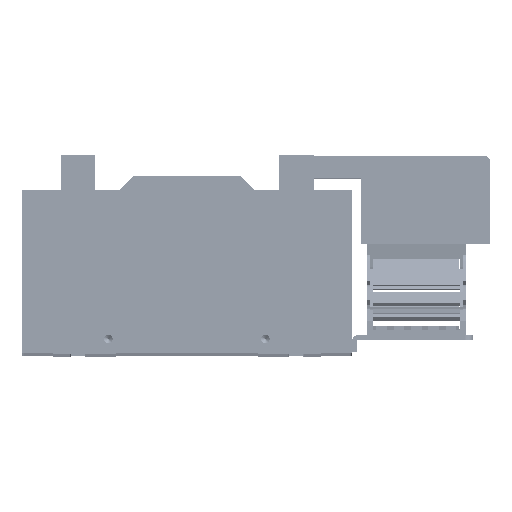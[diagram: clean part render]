
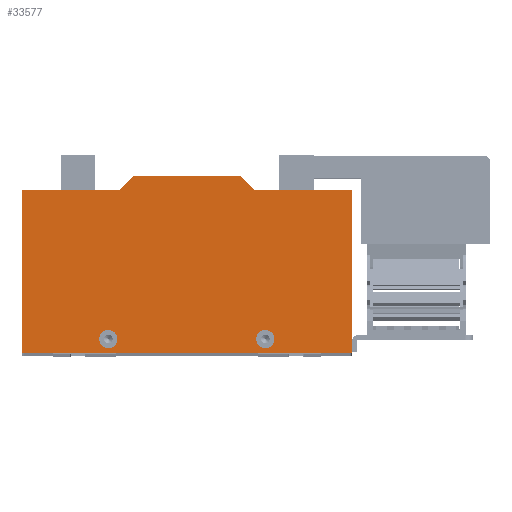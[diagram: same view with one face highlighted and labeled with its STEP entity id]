
A CAD part, top view. The second image highlights one B-rep face of the part: STEP entity #33577.
In plain terms, the highlighted planar face has unit normal (0, 0, 1) as drawn and (0, 0, -1) by its records, which use the part's own axes.
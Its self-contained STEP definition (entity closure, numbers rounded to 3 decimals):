
#12096 = CARTESIAN_POINT ( 'NONE',  ( 14.809, 84.299, 0. ) ) ;
#12155 = CARTESIAN_POINT ( 'NONE',  ( -175.191, 84.299, 0. ) ) ;
#12185 = DIRECTION ( 'NONE',  ( 0.707, -0.707, 0. ) ) ;
#12186 = VECTOR ( 'NONE', #12185, 1000. ) ;
#12187 = CARTESIAN_POINT ( 'NONE',  ( -111.191, -17.701, 0. ) ) ;
#12188 = LINE ( 'NONE', #12187, #12186 ) ;
#12190 = DIRECTION ( 'NONE',  ( 0.707, 0.707, 0. ) ) ;
#12191 = VECTOR ( 'NONE', #12190, 1000. ) ;
#12192 = CARTESIAN_POINT ( 'NONE',  ( -41.191, -9.701, 0. ) ) ;
#12193 = LINE ( 'NONE', #12192, #12191 ) ;
#12199 = CARTESIAN_POINT ( 'NONE',  ( -41.191, -9.701, 0. ) ) ;
#12200 = DIRECTION ( 'NONE',  ( 1., 0., 0. ) ) ;
#12201 = VECTOR ( 'NONE', #12200, 1000. ) ;
#12202 = CARTESIAN_POINT ( 'NONE',  ( 14.809, -9.701, 0. ) ) ;
#12203 = LINE ( 'NONE', #12202, #12201 ) ;
#12218 = DIRECTION ( 'NONE',  ( 0., -1., 0. ) ) ;
#12219 = VECTOR ( 'NONE', #12218, 1000. ) ;
#12220 = CARTESIAN_POINT ( 'NONE',  ( 14.809, 84.299, 0. ) ) ;
#12221 = LINE ( 'NONE', #12220, #12219 ) ;
#12231 = DIRECTION ( 'NONE',  ( 1., 0., 0. ) ) ;
#12232 = VECTOR ( 'NONE', #12231, 1000. ) ;
#12233 = CARTESIAN_POINT ( 'NONE',  ( -119.191, -9.701, 0. ) ) ;
#12234 = LINE ( 'NONE', #12233, #12232 ) ;
#12241 = CARTESIAN_POINT ( 'NONE',  ( -119.191, -9.701, 0. ) ) ;
#12342 = DIRECTION ( 'NONE',  ( -1., 0., 0. ) ) ;
#12343 = DIRECTION ( 'NONE',  ( 0., 0., -1. ) ) ;
#12344 = CARTESIAN_POINT ( 'NONE',  ( -34.941, 76.299, 0. ) ) ;
#12345 = AXIS2_PLACEMENT_3D ( 'NONE', #12344, #12343, #12342 ) ;
#12346 = CIRCLE ( 'NONE', #12345, 5.25 ) ;
#12418 = CARTESIAN_POINT ( 'NONE',  ( -40.191, 76.299, 0. ) ) ;
#12434 = CARTESIAN_POINT ( 'NONE',  ( -120.191, 76.299, 0. ) ) ;
#12528 = DIRECTION ( 'NONE',  ( 1., 0., 0. ) ) ;
#12529 = VECTOR ( 'NONE', #12528, 1000. ) ;
#12530 = CARTESIAN_POINT ( 'NONE',  ( -175.191, 84.299, 0. ) ) ;
#12531 = LINE ( 'NONE', #12530, #12529 ) ;
#12587 = CARTESIAN_POINT ( 'NONE',  ( -29.691, 76.299, 0. ) ) ;
#32981 = VERTEX_POINT ( 'NONE', #12096 ) ;
#33026 = EDGE_CURVE ( 'NONE', #33309, #33029, #93693, .T. ) ;
#33029 = VERTEX_POINT ( 'NONE', #93750 ) ;
#33049 = VERTEX_POINT ( 'NONE', #93714 ) ;
#33062 = EDGE_CURVE ( 'NONE', #33049, #33169, #93765, .T. ) ;
#33169 = VERTEX_POINT ( 'NONE', #12155 ) ;
#33175 = ORIENTED_EDGE ( 'NONE', *, *, #33179, .F. ) ;
#33179 = EDGE_CURVE ( 'NONE', #33180, #33558, #12203, .T. ) ;
#33180 = VERTEX_POINT ( 'NONE', #12199 ) ;
#33183 = ORIENTED_EDGE ( 'NONE', *, *, #33185, .F. ) ;
#33185 = EDGE_CURVE ( 'NONE', #33620, #33180, #12193, .T. ) ;
#33187 = ORIENTED_EDGE ( 'NONE', *, *, #33650, .T. ) ;
#33189 = ORIENTED_EDGE ( 'NONE', *, *, #33191, .F. ) ;
#33191 = EDGE_CURVE ( 'NONE', #33193, #33717, #12188, .T. ) ;
#33193 = VERTEX_POINT ( 'NONE', #12241 ) ;
#33199 = ORIENTED_EDGE ( 'NONE', *, *, #33200, .F. ) ;
#33200 = EDGE_CURVE ( 'NONE', #33049, #33193, #12234, .T. ) ;
#33209 = ORIENTED_EDGE ( 'NONE', *, *, #33062, .T. ) ;
#33212 = EDGE_CURVE ( 'NONE', #32981, #33558, #12221, .T. ) ;
#33219 = ORIENTED_EDGE ( 'NONE', *, *, #33367, .T. ) ;
#33287 = EDGE_CURVE ( 'NONE', #33404, #33314, #12346, .T. ) ;
#33309 = VERTEX_POINT ( 'NONE', #12434 ) ;
#33314 = VERTEX_POINT ( 'NONE', #12418 ) ;
#33367 = EDGE_CURVE ( 'NONE', #33169, #32981, #12531, .T. ) ;
#33404 = VERTEX_POINT ( 'NONE', #12587 ) ;
#33552 = ORIENTED_EDGE ( 'NONE', *, *, #33026, .F. ) ;
#33558 = VERTEX_POINT ( 'NONE', #94078 ) ;
#33577 = ADVANCED_FACE ( 'NONE', ( #94120, #94119, #94118 ), #94117, .F. ) ;
#33600 = EDGE_LOOP ( 'NONE', ( #33637, #33552 ) ) ;
#33617 = ORIENTED_EDGE ( 'NONE', *, *, #33618, .F. ) ;
#33618 = EDGE_CURVE ( 'NONE', #33314, #33404, #94189, .T. ) ;
#33620 = VERTEX_POINT ( 'NONE', #94184 ) ;
#33632 = ORIENTED_EDGE ( 'NONE', *, *, #33212, .T. ) ;
#33637 = ORIENTED_EDGE ( 'NONE', *, *, #33723, .F. ) ;
#33639 = EDGE_LOOP ( 'NONE', ( #33632, #33175, #33183, #33187, #33189, #33199, #33209, #33219 ) ) ;
#33650 = EDGE_CURVE ( 'NONE', #33620, #33717, #94202, .T. ) ;
#33686 = ORIENTED_EDGE ( 'NONE', *, *, #33287, .F. ) ;
#33701 = EDGE_LOOP ( 'NONE', ( #33617, #33686 ) ) ;
#33717 = VERTEX_POINT ( 'NONE', #94305 ) ;
#33723 = EDGE_CURVE ( 'NONE', #33029, #33309, #94304, .T. ) ;
#93689 = DIRECTION ( 'NONE',  ( -1., 0., 0. ) ) ;
#93690 = DIRECTION ( 'NONE',  ( 0., 0., -1. ) ) ;
#93691 = CARTESIAN_POINT ( 'NONE',  ( -125.441, 76.299, 0. ) ) ;
#93692 = AXIS2_PLACEMENT_3D ( 'NONE', #93691, #93690, #93689 ) ;
#93693 = CIRCLE ( 'NONE', #93692, 5.25 ) ;
#93714 = CARTESIAN_POINT ( 'NONE',  ( -175.191, -9.701, 0. ) ) ;
#93750 = CARTESIAN_POINT ( 'NONE',  ( -130.691, 76.299, 0. ) ) ;
#93762 = DIRECTION ( 'NONE',  ( 0., 1., 0. ) ) ;
#93763 = VECTOR ( 'NONE', #93762, 1000. ) ;
#93764 = CARTESIAN_POINT ( 'NONE',  ( -175.191, -17.701, 0. ) ) ;
#93765 = LINE ( 'NONE', #93764, #93763 ) ;
#94078 = CARTESIAN_POINT ( 'NONE',  ( 14.809, -9.701, 0. ) ) ;
#94113 = DIRECTION ( 'NONE',  ( 1., 0., 0. ) ) ;
#94114 = DIRECTION ( 'NONE',  ( 0., 0., 1. ) ) ;
#94115 = CARTESIAN_POINT ( 'NONE',  ( -175.191, 84.299, 0. ) ) ;
#94116 = AXIS2_PLACEMENT_3D ( 'NONE', #94115, #94114, #94113 ) ;
#94117 = PLANE ( 'NONE',  #94116 ) ;
#94118 = FACE_OUTER_BOUND ( 'NONE', #33639, .T. ) ;
#94119 = FACE_BOUND ( 'NONE', #33701, .T. ) ;
#94120 = FACE_BOUND ( 'NONE', #33600, .T. ) ;
#94184 = CARTESIAN_POINT ( 'NONE',  ( -49.191, -17.701, 0. ) ) ;
#94185 = DIRECTION ( 'NONE',  ( -1., 0., 0. ) ) ;
#94186 = DIRECTION ( 'NONE',  ( 0., 0., -1. ) ) ;
#94187 = CARTESIAN_POINT ( 'NONE',  ( -34.941, 76.299, 0. ) ) ;
#94188 = AXIS2_PLACEMENT_3D ( 'NONE', #94187, #94186, #94185 ) ;
#94189 = CIRCLE ( 'NONE', #94188, 5.25 ) ;
#94199 = DIRECTION ( 'NONE',  ( -1., 0., 0. ) ) ;
#94200 = VECTOR ( 'NONE', #94199, 1000. ) ;
#94201 = CARTESIAN_POINT ( 'NONE',  ( 14.809, -17.701, 0. ) ) ;
#94202 = LINE ( 'NONE', #94201, #94200 ) ;
#94300 = DIRECTION ( 'NONE',  ( -1., 0., 0. ) ) ;
#94301 = DIRECTION ( 'NONE',  ( 0., 0., -1. ) ) ;
#94302 = CARTESIAN_POINT ( 'NONE',  ( -125.441, 76.299, 0. ) ) ;
#94303 = AXIS2_PLACEMENT_3D ( 'NONE', #94302, #94301, #94300 ) ;
#94304 = CIRCLE ( 'NONE', #94303, 5.25 ) ;
#94305 = CARTESIAN_POINT ( 'NONE',  ( -111.191, -17.701, 0. ) ) ;
